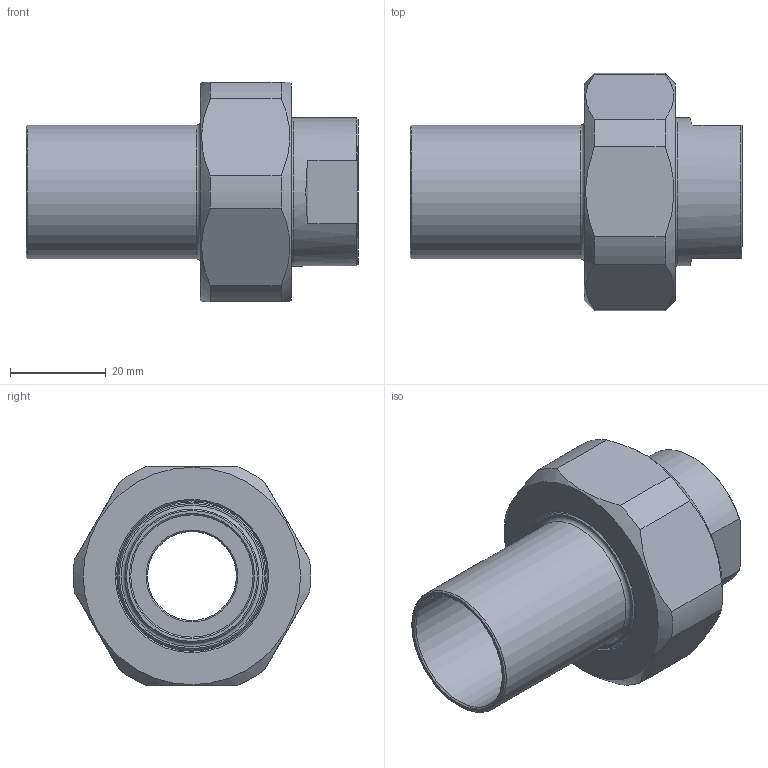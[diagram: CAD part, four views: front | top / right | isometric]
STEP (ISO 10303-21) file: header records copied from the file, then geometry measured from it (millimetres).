
FILE_DESCRIPTION(/* description */ (''),/* implementation_level */ '2;1');
FILE_NAME(/* name */ 'C:\Users\cad\Desktop\Zeichnungen neu von Ralph\Ganze Kupplungen\3D_Kupplung-R666-PE-G\3D_R666-PE-G-28-DN32-DN15_1711309394.stp',/* time_stamp */ '2021-07-16T08:28:22+02:00',/* author */ ('cad'),/* organization */ (''),/* preprocessor_version */ 'ST-DEVELOPER v18.1',/* originating_system */ 'Autodesk Inventor 2022',/* authorisation */ '');
FILE_SCHEMA (('AUTOMOTIVE_DESIGN { 1 0 10303 214 3 1 1 }'));
Length unit declared in the file: millimetre
Products named in the file (4): 3D_R666-PE-G-28-DN32-DN15_1711309394; 3D_R666-M-DN32_17113940; 3D_R666-G-DN15-DN32_17113535; 3D_R666-PE-28-DN32_17113477
Assembly tree (3 placements, depth 2):
  3D_R666-PE-G-28-DN32-DN15_1711309394
    3D_R666-M-DN32_17113940
    3D_R666-G-DN15-DN32_17113535
    3D_R666-PE-28-DN32_17113477
Bounding box: 69.5 x 49.67 x 46 mm (x, y, z)
Volume: 36146.1 mm3; surface area: 21174.1 mm2
Topology: 3 solids, 3 shells, 56 faces, 138 edges, 91 vertices
Faces by surface type: plane 19, cone 18, cylinder 15, torus 4
Full cylindrical faces by diameter (mm): 18.631 x1, 25.6 x1, 28 x1, 31 x2, 31.5 x1, 38 x1, 38.952 x1, 41.8 x1
Entity records: 1834 total; most frequent: DIRECTION 325, CARTESIAN_POINT 324, ORIENTED_EDGE 276, AXIS2_PLACEMENT_3D 140, EDGE_CURVE 138, VERTEX_POINT 91, CIRCLE 75, EDGE_LOOP 65
